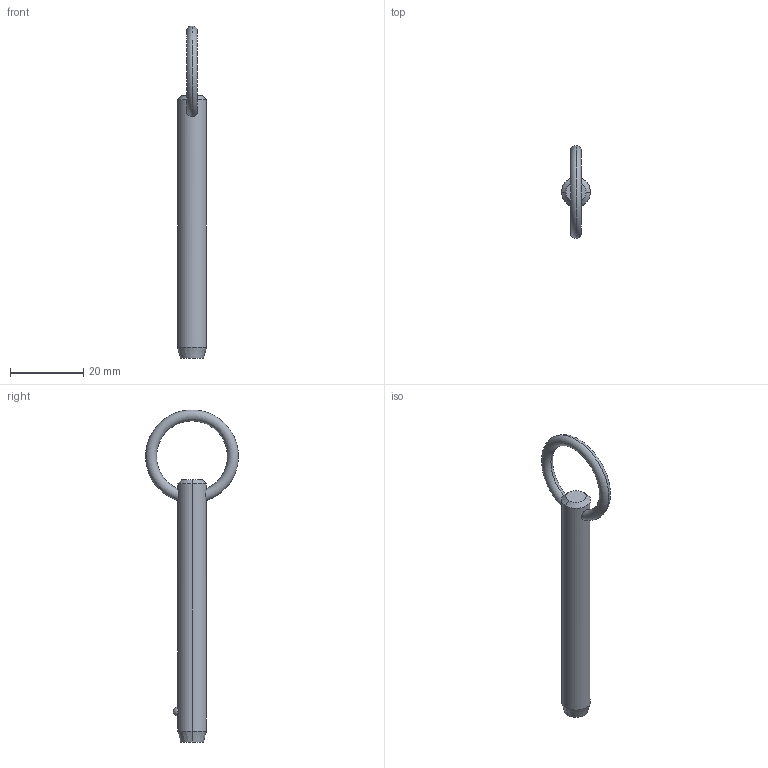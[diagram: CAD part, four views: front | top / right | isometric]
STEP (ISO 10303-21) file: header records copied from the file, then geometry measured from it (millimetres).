
FILE_DESCRIPTION (( 'STEP AP203' ), '1' );
FILE_NAME ('P1250.031-220.step', '2019-07-29T19:51:04', ( '' ), ( '' ), 'SwSTEP 2.0', 'SolidWorks 2017', '' );
FILE_SCHEMA (( 'CONFIG_CONTROL_DESIGN' ));
Length unit declared in the file: millimetre
Products named in the file (1): P1250.031-220
Bounding box: 7.93 x 25.36 x 90.8 mm (x, y, z)
Volume: 3945.2 mm3; surface area: 2423.4 mm2
Topology: 1 solids, 1 shells, 12 faces, 28 edges, 17 vertices
Faces by surface type: cone 4, torus 2, sphere 2, cylinder 2, plane 2
Entity records: 509 total; most frequent: CARTESIAN_POINT 176, DIRECTION 56, ORIENTED_EDGE 48, AXIS2_PLACEMENT_3D 25, EDGE_CURVE 24, VERTEX_POINT 15, EDGE_LOOP 15, CIRCLE 12
